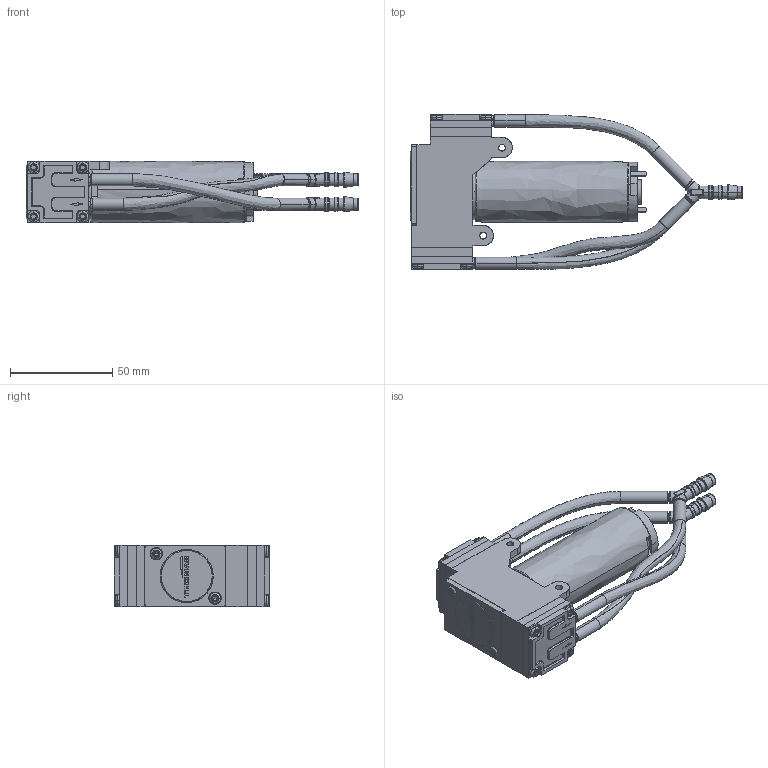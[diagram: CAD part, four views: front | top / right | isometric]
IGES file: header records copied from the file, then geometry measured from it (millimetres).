
Start section: SolidWorks IGES file using analytic representation for surfaces
Global section: file name: Q:\2016\03 Nautilus\41 6410 Shell Creation\Fertige Hüllen\14200203\14200203-18.IGS; native system: SolidWorks 2017; preprocessor: SolidWorks 2017; author: hxs2830; date: 181130.104853; units: metre
Bounding box: 162.36 x 75.81 x 30 mm (x, y, z)
Surface area: 31016.4 mm2 (no closed solid volume)
Topology: 0 solids, 0 shells, 1324 faces, 11993 edges, 11989 vertices
Faces by surface type: bspline 928, revolution 396
